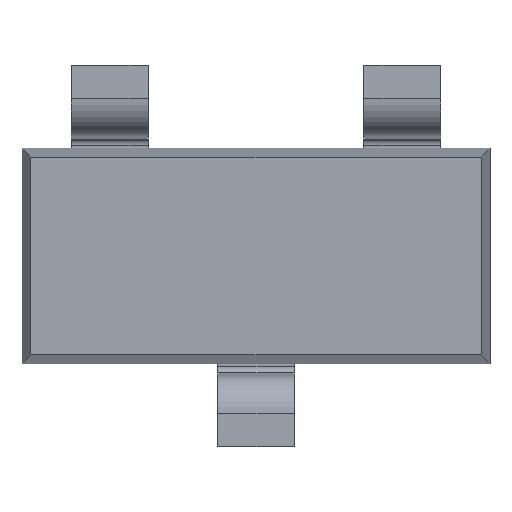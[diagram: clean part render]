
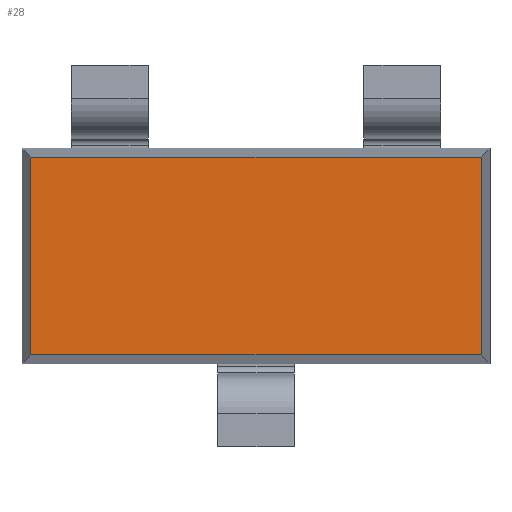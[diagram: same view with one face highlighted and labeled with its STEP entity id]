
A CAD part, front view. The second image highlights one B-rep face of the part: STEP entity #28.
In plain terms, the highlighted planar face has unit normal (0, -1, 0).
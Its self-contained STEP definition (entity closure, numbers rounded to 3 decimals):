
#3 = EDGE_CURVE ( 'NONE', #8, #31, #376, .T. ) ;
#8 = VERTEX_POINT ( 'NONE', #371 ) ;
#10 = ORIENTED_EDGE ( 'NONE', *, *, #795, .T. ) ;
#20 = VERTEX_POINT ( 'NONE', #415 ) ;
#25 = ORIENTED_EDGE ( 'NONE', *, *, #54, .T. ) ;
#27 = EDGE_CURVE ( 'NONE', #31, #33, #405, .T. ) ;
#28 = ADVANCED_FACE ( 'NONE', ( #402 ), #409, .F. ) ;
#29 = ORIENTED_EDGE ( 'NONE', *, *, #3, .T. ) ;
#31 = VERTEX_POINT ( 'NONE', #406 ) ;
#33 = VERTEX_POINT ( 'NONE', #460 ) ;
#35 = ORIENTED_EDGE ( 'NONE', *, *, #27, .T. ) ;
#54 = EDGE_CURVE ( 'NONE', #33, #20, #437, .T. ) ;
#371 = CARTESIAN_POINT ( 'NONE',  ( -1.462, -0.51, -0.642 ) ) ;
#374 = DIRECTION ( 'NONE',  ( 1., 0., 0. ) ) ;
#375 = CARTESIAN_POINT ( 'NONE',  ( 1.52, -0.51, -0.642 ) ) ;
#376 = LINE ( 'NONE', #375, #435 ) ;
#402 = FACE_OUTER_BOUND ( 'NONE', #803, .T. ) ;
#404 = CARTESIAN_POINT ( 'NONE',  ( 1.462, -0.51, 0.7 ) ) ;
#405 = LINE ( 'NONE', #404, #463 ) ;
#406 = CARTESIAN_POINT ( 'NONE',  ( 1.462, -0.51, -0.642 ) ) ;
#409 = PLANE ( 'NONE',  #459 ) ;
#415 = CARTESIAN_POINT ( 'NONE',  ( -1.462, -0.51, 0.642 ) ) ;
#435 = VECTOR ( 'NONE', #374, 1000. ) ;
#437 = LINE ( 'NONE', #475, #473 ) ;
#456 = DIRECTION ( 'NONE',  ( 0., 0., 1. ) ) ;
#457 = DIRECTION ( 'NONE',  ( 0., 1., 0. ) ) ;
#458 = CARTESIAN_POINT ( 'NONE',  ( 1.52, -0.51, 0.7 ) ) ;
#459 = AXIS2_PLACEMENT_3D ( 'NONE', #458, #457, #456 ) ;
#460 = CARTESIAN_POINT ( 'NONE',  ( 1.462, -0.51, 0.642 ) ) ;
#462 = DIRECTION ( 'NONE',  ( 0., 0., 1. ) ) ;
#463 = VECTOR ( 'NONE', #462, 1000. ) ;
#472 = DIRECTION ( 'NONE',  ( -1., 0., 0. ) ) ;
#473 = VECTOR ( 'NONE', #472, 1000. ) ;
#475 = CARTESIAN_POINT ( 'NONE',  ( 1.52, -0.51, 0.642 ) ) ;
#795 = EDGE_CURVE ( 'NONE', #20, #8, #1605, .T. ) ;
#803 = EDGE_LOOP ( 'NONE', ( #10, #29, #35, #25 ) ) ;
#1602 = DIRECTION ( 'NONE',  ( 0., 0., -1. ) ) ;
#1603 = VECTOR ( 'NONE', #1602, 1000. ) ;
#1604 = CARTESIAN_POINT ( 'NONE',  ( -1.462, -0.51, 0.7 ) ) ;
#1605 = LINE ( 'NONE', #1604, #1603 ) ;
